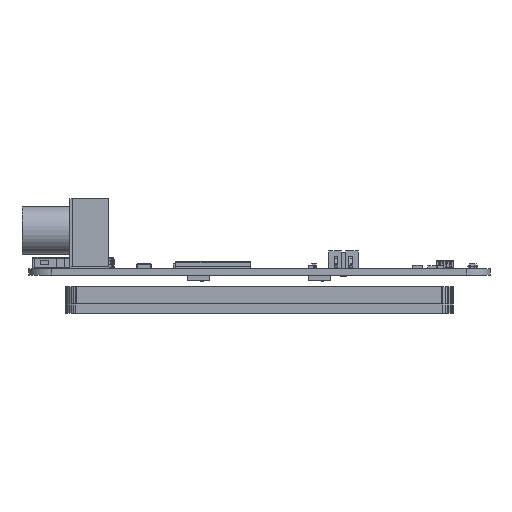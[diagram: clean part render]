
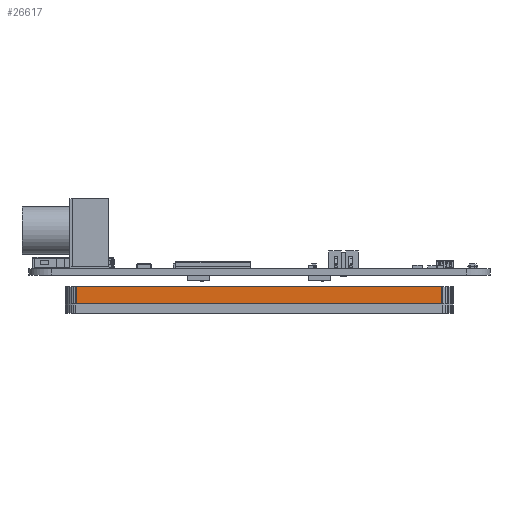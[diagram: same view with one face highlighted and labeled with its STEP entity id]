
A CAD part, left-side view. The second image highlights one B-rep face of the part: STEP entity #26617.
In plain terms, the highlighted planar face has unit normal (-1, 0, 0).
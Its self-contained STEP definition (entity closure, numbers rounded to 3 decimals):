
#26592 = VERTEX_POINT('',#26593);
#26593 = CARTESIAN_POINT('',(-52.75,-31.65,3.));
#26599 = EDGE_CURVE('',#26600,#26592,#26602,.T.);
#26600 = VERTEX_POINT('',#26601);
#26601 = CARTESIAN_POINT('',(-52.75,-31.65,0.));
#26602 = LINE('',#26603,#26604);
#26603 = CARTESIAN_POINT('',(-52.75,-31.65,0.));
#26604 = VECTOR('',#26605,1.);
#26605 = DIRECTION('',(0.,0.,1.));
#26617 = ADVANCED_FACE('',(#26618),#26643,.T.);
#26618 = FACE_BOUND('',#26619,.T.);
#26619 = EDGE_LOOP('',(#26620,#26621,#26629,#26637));
#26620 = ORIENTED_EDGE('',*,*,#26599,.T.);
#26621 = ORIENTED_EDGE('',*,*,#26622,.T.);
#26622 = EDGE_CURVE('',#26592,#26623,#26625,.T.);
#26623 = VERTEX_POINT('',#26624);
#26624 = CARTESIAN_POINT('',(-52.75,31.675,3.));
#26625 = LINE('',#26626,#26627);
#26626 = CARTESIAN_POINT('',(-52.75,-31.65,3.));
#26627 = VECTOR('',#26628,1.);
#26628 = DIRECTION('',(0.,1.,0.));
#26629 = ORIENTED_EDGE('',*,*,#26630,.F.);
#26630 = EDGE_CURVE('',#26631,#26623,#26633,.T.);
#26631 = VERTEX_POINT('',#26632);
#26632 = CARTESIAN_POINT('',(-52.75,31.675,0.));
#26633 = LINE('',#26634,#26635);
#26634 = CARTESIAN_POINT('',(-52.75,31.675,0.));
#26635 = VECTOR('',#26636,1.);
#26636 = DIRECTION('',(0.,0.,1.));
#26637 = ORIENTED_EDGE('',*,*,#26638,.F.);
#26638 = EDGE_CURVE('',#26600,#26631,#26639,.T.);
#26639 = LINE('',#26640,#26641);
#26640 = CARTESIAN_POINT('',(-52.75,-31.65,0.));
#26641 = VECTOR('',#26642,1.);
#26642 = DIRECTION('',(0.,1.,0.));
#26643 = PLANE('',#26644);
#26644 = AXIS2_PLACEMENT_3D('',#26645,#26646,#26647);
#26645 = CARTESIAN_POINT('',(-52.75,-31.65,0.));
#26646 = DIRECTION('',(-1.,0.,0.));
#26647 = DIRECTION('',(0.,1.,0.));
